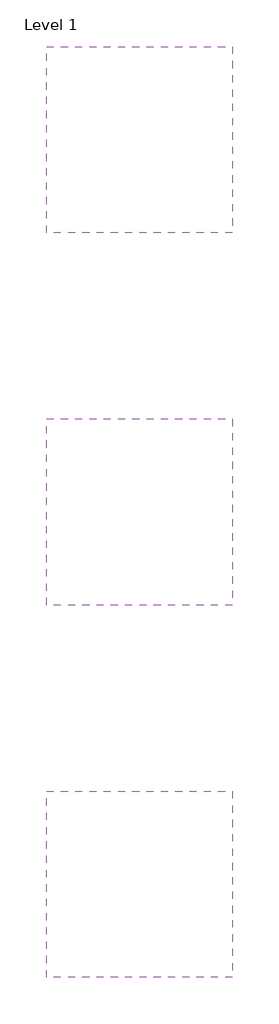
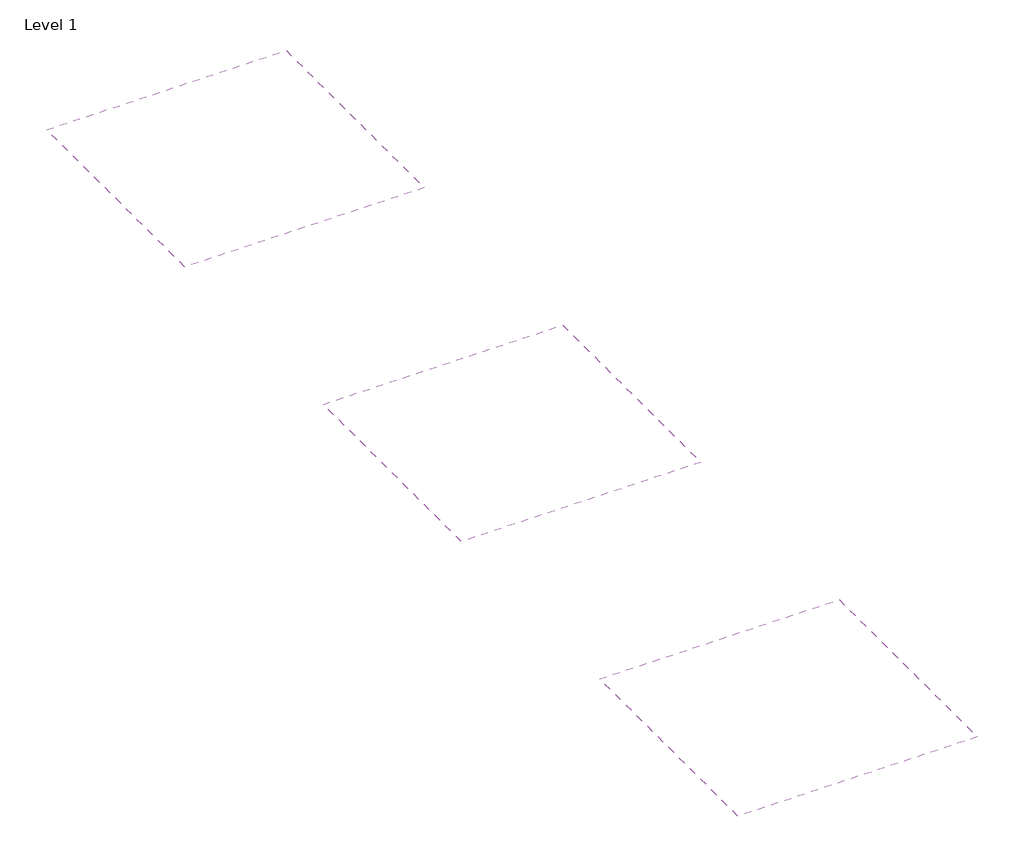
# One storey: 3 coverings.
"""IFC4 building model written with IfcOpenShell, lengths in millimetres."""

from ifc_helpers import new_model, si_unit, frame, origin, place, context, project, spatial, polyline, outline, extrude, element, save

model = new_model("IFC4")

# Units and contexts
model_context = context("Model", 3, world=origin())
ifc_project = project(units=[si_unit("LENGTHUNIT", "METRE", prefix="MILLI")], contexts=[model_context])

# Site, building, storey
site = spatial("IfcSite", under=ifc_project)
building = spatial("IfcBuilding", under=site)
storey = spatial("IfcBuildingStorey", under=building, Name="Level 1", Elevation=0.0)

# Coverings
placement = place(None, origin())
element("IfcCovering", 1, ObjectType="NBS_ArmstrongCeilingsLtd_UnitModularSuspendedCeilingSystem_BioguardAcousticBoard-Prelude24Exposed_600x600x17mm_GB", at=placement, inside=storey, context=model_context, shape_type="SweptSolid", body=[
    extrude(outline(polyline([(2400.0, 12600.0), (2400.0, 10100.0), (-100.0, 10100.0), (-100.0, 12600.0), (2400.0, 12600.0)])), frame((0.0, 0.0, 2600.0), z_axis=(0.0, 0.0, 1.0), x_axis=(1.0, 0.0, 0.0)), (0.0, 0.0, 1.0), 43.0),
])
element("IfcCovering", 2, ObjectType="NBS_ArmstrongCeilingsLtd_UnitModularSuspendedCeilingSystem_BioguardAcousticBoard-Prelude24Exposed_625x625x17mm_DE", at=placement, inside=storey, context=model_context, shape_type="SweptSolid", body=[
    extrude(outline(polyline([(2400.0, 7600.0), (2400.0, 5100.0), (-100.0, 5100.0), (-100.0, 7600.0), (2400.0, 7600.0)])), frame((0.0, 0.0, 2600.0), z_axis=(0.0, 0.0, 1.0), x_axis=(1.0, 0.0, 0.0)), (0.0, 0.0, 1.0), 51.0),
])
element("IfcCovering", 3, ObjectType="NBS_ArmstrongCeilingsLtd_UnitModularSuspendedCeilingSystem_BioguardAcousticBoard-Prelude24Exposed_1200x600x17mm_GB", at=placement, inside=storey, context=model_context, shape_type="SweptSolid", body=[
    extrude(outline(polyline([(2400.0, 2600.0), (2400.0, 100.0), (-100.0, 100.0), (-100.0, 2600.0), (2400.0, 2600.0)])), frame((0.0, 0.0, 2600.0), z_axis=(0.0, 0.0, 1.0), x_axis=(1.0, 0.0, 0.0)), (0.0, 0.0, 1.0), 60.0),
])

save(model, "model.ifc")
